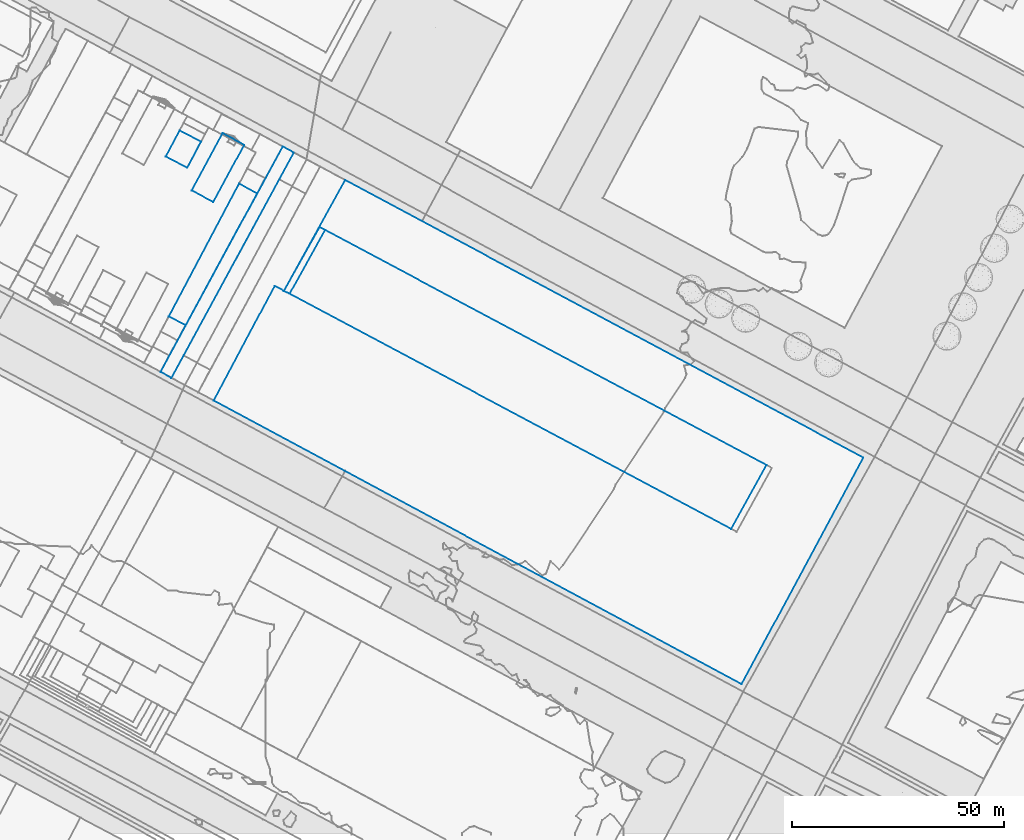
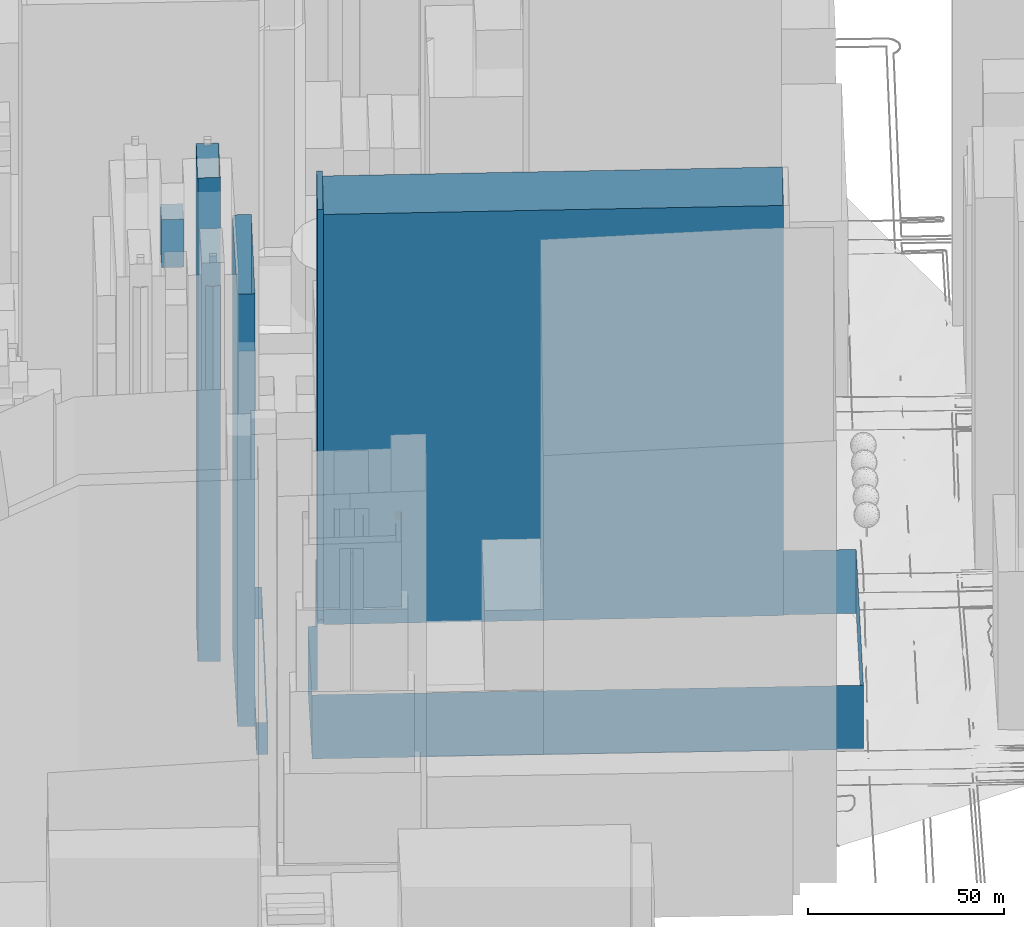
# Not in any storey, part 20 of 76: 7 walls.
"""IFC2X3 model written with IfcOpenShell, lengths in metres."""

from ifc_helpers import new_model, si_unit, frame, origin_with_axes, place, context, subcontext, project, faceted_brep, element, save


model = new_model("IFC2X3")

# Units and contexts
model_context = context("Model", 3, precision=1e-05, world=origin_with_axes())
body_context = subcontext(model_context, "Body", "Model", "MODEL_VIEW")
ifc_project = project(units=[si_unit("AREAUNIT", "SQUARE_METRE"), si_unit("LENGTHUNIT", "METRE")], contexts=[model_context])

# Walls
wall_1_placement = place(None, frame((145.8163168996, 126.9152581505, 39.4739662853), z_axis=(0.0, 0.0, 1.0), x_axis=(1.0, 0.0, 0.0)))
element("IfcWall", 1, at=wall_1_placement, Name="Mur 0", context=body_context, shape_type="Brep", body=[
    faceted_brep([(103.867286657, -55.3249895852, 128.0), (0.0, 0.0, 128.0), (103.867286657, -55.3249895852, 0.0), (0.0, 0.0, 0.0), (112.1849689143, -40.3178861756, 128.0), (112.1849689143, -40.3178861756, 0.0), (8.3262633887, 15.0070838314, 128.0), (8.3262633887, 15.0070838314, 0.0)], [[[0, 1, 2]], [[2, 1, 3]], [[4, 0, 5]], [[5, 0, 2]], [[1, 6, 3]], [[3, 6, 7]], [[6, 4, 7]], [[7, 4, 5]]]),
])
wall_2_placement = place(None, frame((127.9503385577, 101.7942196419, 19.0609188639), z_axis=(0.0, 0.0, 1.0), x_axis=(1.0, 0.0, 0.0)))
element("IfcWall", 2, at=wall_2_placement, Name="Mur 0", context=body_context, shape_type="Brep", body=[
    faceted_brep([(124.2012870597, -66.7460663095, 20.0), (0.0, 0.0, 20.0), (124.2012870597, -66.7460663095, 0.0), (0.0, 0.0, 0.0), (152.8564476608, -13.4215566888, 20.0), (152.8564476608, -13.4215566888, 0.0), (30.9179421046, 51.8848183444, 20.0), (30.9179421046, 51.8848183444, 0.0), (16.4988125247, 25.8156958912, 20.0), (16.4988125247, 25.8156958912, 0.0), (14.3495804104, 26.9786628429, 20.0), (14.3495804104, 26.9786628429, 0.0)], [[[0, 1, 2]], [[2, 1, 3]], [[4, 0, 5]], [[5, 0, 2]], [[6, 4, 7]], [[7, 4, 5]], [[8, 6, 9]], [[9, 6, 7]], [[1, 10, 3]], [[3, 10, 11]], [[10, 8, 11]], [[11, 8, 9]]]),
])
wall_3_placement = place(None, frame((144.4491510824, 127.6099155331, 41.0408020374), z_axis=(0.0, 0.0, 1.0), x_axis=(1.0, 0.0, 0.0)))
element("IfcWall", 3, at=wall_3_placement, Name="Mur 0", context=body_context, shape_type="Brep", body=[
    faceted_brep([(1.3671658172, -0.6946573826, 128.0), (0.0, 0.0, 128.0), (1.3671658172, -0.6946573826, 0.0), (0.0, 0.0, 0.0), (9.6934292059, 14.3124264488, 128.0), (9.6934292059, 14.3124264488, 0.0), (8.4192388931, 14.9970605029, 128.0), (8.4192388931, 14.9970605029, 0.0)], [[[0, 1, 2]], [[2, 1, 3]], [[4, 0, 5]], [[5, 0, 2]], [[1, 6, 3]], [[3, 6, 7]], [[6, 4, 7]], [[7, 4, 5]]]),
])
wall_4_placement = place(None, frame((117.3791727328, 121.6110559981, 20.8267398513), z_axis=(0.0, 0.0, 1.0), x_axis=(1.0, 0.0, 0.0)))
element("IfcWall", 4, at=wall_4_placement, Name="Mur 0", context=body_context, shape_type="Brep", body=[
    faceted_brep([(3.9330714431, -2.1192496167, 135.0), (0.0, 0.0, 135.0), (3.9330714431, -2.1192496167, 0.0), (0.0, 0.0, 0.0), (20.7848229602, 28.9185921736, 135.0), (20.7848229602, 28.9185921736, 0.0), (16.537532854, 31.2007155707, 135.0), (16.537532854, 31.2007155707, 0.0)], [[[0, 1, 2]], [[2, 1, 3]], [[4, 0, 5]], [[5, 0, 2]], [[1, 6, 3]], [[3, 6, 7]], [[6, 4, 7]], [[7, 4, 5]]]),
])
wall_5_placement = place(None, frame((115.4207049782, 108.532058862, 20.6954997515), z_axis=(0.0, 0.0, 1.0), x_axis=(1.0, 0.0, 0.0)))
element("IfcWall", 5, at=wall_5_placement, Name="Mur 0", context=body_context, shape_type="Brep", body=[
    faceted_brep([(2.5572123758, -1.4024849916, 10.0), (0.0, 0.0, 10.0), (2.5572123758, -1.4024849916, 0.0), (0.0, 0.0, 0.0), (31.3771339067, 51.6014424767, 10.0), (31.3771339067, 51.6014424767, 0.0), (28.7687753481, 53.0477319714, 10.0), (28.7687753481, 53.0477319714, 0.0)], [[[0, 1, 2]], [[2, 1, 3]], [[4, 0, 5]], [[5, 0, 2]], [[1, 6, 3]], [[3, 6, 7]], [[6, 4, 7]], [[7, 4, 5]]]),
])
wall_6_placement = place(None, frame((116.6721914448, 159.2172708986, 141.4782063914), z_axis=(0.0, 0.0, 1.0), x_axis=(1.0, 0.0, 0.0)))
element("IfcWall", 6, at=wall_6_placement, Name="Mur 0", context=body_context, shape_type="Brep", body=[
    faceted_brep([(5.0281825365, -2.6505379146, 15.0), (0.0, 0.0, 15.0), (5.0281825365, -2.6505379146, 0.0), (0.0, 0.0, 0.0), (8.2745883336, 3.4712109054, 15.0), (8.2745883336, 3.4712109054, 0.0), (3.2380972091, 6.1105477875, 15.0), (3.2380972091, 6.1105477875, 0.0)], [[[0, 1, 2]], [[2, 1, 3]], [[4, 0, 5]], [[5, 0, 2]], [[1, 6, 3]], [[3, 6, 7]], [[6, 4, 7]], [[7, 4, 5]]]),
])
wall_7_placement = place(None, frame((122.7499311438, 151.2387428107, 21.2252541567), z_axis=(0.0, 0.0, 1.0), x_axis=(1.0, 0.0, 0.0)))
element("IfcWall", 7, at=wall_7_placement, Name="Mur 0", context=body_context, shape_type="Brep", body=[
    faceted_brep([(5.0798643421, -2.738751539, 151.0), (0.0, 0.0, 151.0), (5.0798643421, -2.738751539, 0.0), (0.0, 0.0, 0.0), (12.3774568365, 10.713146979, 151.0), (12.3774568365, 10.713146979, 0.0), (7.2975986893, 13.4518934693, 151.0), (7.2975986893, 13.4518934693, 0.0)], [[[0, 1, 2]], [[2, 1, 3]], [[4, 0, 5]], [[5, 0, 2]], [[1, 6, 3]], [[3, 6, 7]], [[6, 4, 7]], [[7, 4, 5]]]),
])

save(model, "model.ifc")
